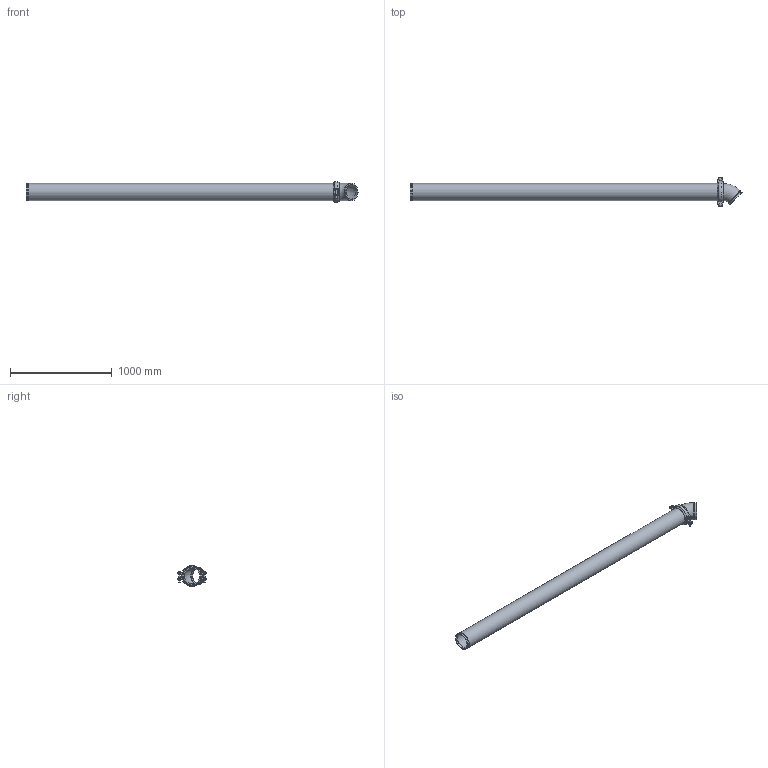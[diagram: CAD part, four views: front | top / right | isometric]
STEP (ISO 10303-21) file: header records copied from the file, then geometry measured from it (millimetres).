
FILE_DESCRIPTION(/* description */ ('VIC LONG RUN FITTING No R14 (OGS)','CAx-IF Rec.Pracs.---Representation and Presentation of Product Manufacturing Information (PMI)---4.0---2014-10-13'),/* implementation_level */ '2;1');
FILE_NAME(/* name */ 'C:\Users\Vjadhav\AppData\Roaming\Autodesk\ApplicationPlugins\Back Up\Victaulic_IPS_Long Run Fittings_No R14 (OGS)\Victaulic_IPS_Long Run Fittings_No R14 (OGS)_6 (150).stp',/* time_stamp */ '2020-10-13T18:28:50+06:00',/* author */ ('Vjadhav'),/* organization */ ('Victaulic'),/* preprocessor_version */ 'ST-DEVELOPER v17.2',/* originating_system */ 'Autodesk Inventor 2019',/* authorisation */ '');
FILE_SCHEMA (('AP242_MANAGED_MODEL_BASED_3D_ENGINEERING_MIM_LF { 1 0 10303 442 1 1 4 }'));
Length unit declared in the file: inch
Products named in the file (4): R14-06.0; 011-06.0; 107N-06.0; Pipe_R13-06.0
Assembly tree (3 placements, depth 2):
  R14-06.0
    011-06.0
    107N-06.0
    Pipe_R13-06.0
Bounding box: 3263.07 x 285.75 x 205.74 mm (x, y, z)
Volume: 12258477 mm3; surface area: 3400452.8 mm2
Topology: 3 solids, 3 shells, 149 faces, 375 edges, 252 vertices
Faces by surface type: plane 62, cylinder 57, bspline 16, torus 8, cone 4, sphere 2
Full cylindrical faces by diameter (mm): 15.875 x4, 27.381 x2, 154.051 x3, 155.575 x1, 163.957 x4, 168.275 x7
Entity records: 5364 total; most frequent: CARTESIAN_POINT 1339, DIRECTION 821, ORIENTED_EDGE 750, EDGE_CURVE 375, AXIS2_PLACEMENT_3D 326, VERTEX_POINT 252, EDGE_LOOP 179, LINE 169
